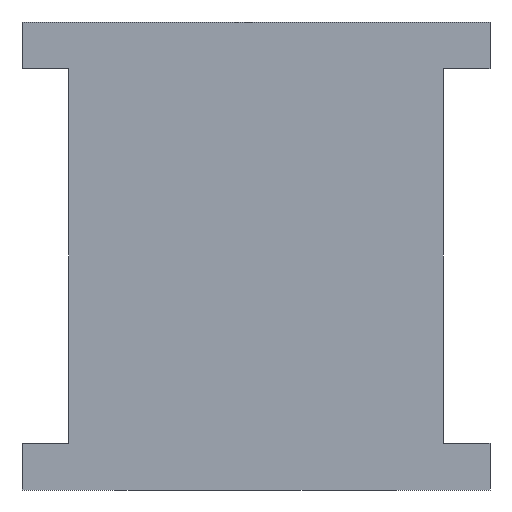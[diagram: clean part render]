
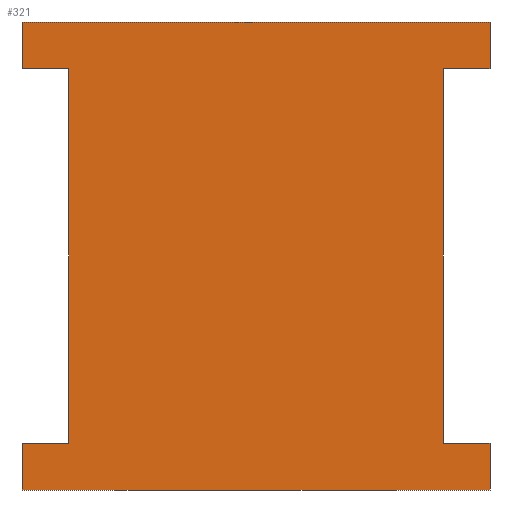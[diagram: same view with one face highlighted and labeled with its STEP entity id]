
A CAD part, front view. The second image highlights one B-rep face of the part: STEP entity #321.
In plain terms, the highlighted planar face has unit normal (0, -1, 0).
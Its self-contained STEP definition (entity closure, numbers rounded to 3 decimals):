
#34=FACE_OUTER_BOUND('',#51,.T.);
#51=EDGE_LOOP('',(#271,#272,#273,#274,#275,#276,#277,#278,#279,#280,#281,
#282));
#71=LINE('',#479,#111);
#74=LINE('',#484,#114);
#76=LINE('',#488,#116);
#78=LINE('',#493,#118);
#81=LINE('',#498,#121);
#83=LINE('',#502,#123);
#84=LINE('',#505,#124);
#86=LINE('',#509,#126);
#90=LINE('',#522,#130);
#92=LINE('',#526,#132);
#93=LINE('',#528,#133);
#94=LINE('',#529,#134);
#111=VECTOR('',#387,10.);
#114=VECTOR('',#392,10.);
#116=VECTOR('',#396,10.);
#118=VECTOR('',#400,10.);
#121=VECTOR('',#405,10.);
#123=VECTOR('',#409,10.);
#124=VECTOR('',#412,10.);
#126=VECTOR('',#416,10.);
#130=VECTOR('',#430,10.);
#132=VECTOR('',#434,10.);
#133=VECTOR('',#437,10.);
#134=VECTOR('',#438,10.);
#149=VERTEX_POINT('',#476);
#150=VERTEX_POINT('',#478);
#151=VERTEX_POINT('',#482);
#152=VERTEX_POINT('',#486);
#153=VERTEX_POINT('',#490);
#154=VERTEX_POINT('',#492);
#155=VERTEX_POINT('',#496);
#156=VERTEX_POINT('',#500);
#157=VERTEX_POINT('',#504);
#158=VERTEX_POINT('',#508);
#162=VERTEX_POINT('',#520);
#163=VERTEX_POINT('',#524);
#180=EDGE_CURVE('',#150,#149,#71,.T.);
#183=EDGE_CURVE('',#149,#151,#74,.T.);
#185=EDGE_CURVE('',#151,#152,#76,.T.);
#187=EDGE_CURVE('',#154,#153,#78,.T.);
#190=EDGE_CURVE('',#153,#155,#81,.T.);
#192=EDGE_CURVE('',#155,#156,#83,.T.);
#193=EDGE_CURVE('',#157,#150,#84,.T.);
#195=EDGE_CURVE('',#154,#158,#86,.T.);
#202=EDGE_CURVE('',#157,#162,#90,.T.);
#204=EDGE_CURVE('',#152,#163,#92,.T.);
#205=EDGE_CURVE('',#158,#163,#93,.T.);
#206=EDGE_CURVE('',#162,#156,#94,.T.);
#271=ORIENTED_EDGE('',*,*,#185,.T.);
#272=ORIENTED_EDGE('',*,*,#204,.T.);
#273=ORIENTED_EDGE('',*,*,#205,.F.);
#274=ORIENTED_EDGE('',*,*,#195,.F.);
#275=ORIENTED_EDGE('',*,*,#187,.T.);
#276=ORIENTED_EDGE('',*,*,#190,.T.);
#277=ORIENTED_EDGE('',*,*,#192,.T.);
#278=ORIENTED_EDGE('',*,*,#206,.F.);
#279=ORIENTED_EDGE('',*,*,#202,.F.);
#280=ORIENTED_EDGE('',*,*,#193,.T.);
#281=ORIENTED_EDGE('',*,*,#180,.T.);
#282=ORIENTED_EDGE('',*,*,#183,.T.);
#305=PLANE('',#360);
#321=ADVANCED_FACE('',(#34),#305,.T.);
#360=AXIS2_PLACEMENT_3D('',#527,#435,#436);
#387=DIRECTION('',(-1.,0.,0.));
#392=DIRECTION('',(0.,0.,1.));
#396=DIRECTION('',(1.,0.,0.));
#400=DIRECTION('',(1.,0.,0.));
#405=DIRECTION('',(0.,0.,-1.));
#409=DIRECTION('',(-1.,0.,0.));
#412=DIRECTION('',(0.,0.,1.));
#416=DIRECTION('',(0.,0.,1.));
#430=DIRECTION('',(-1.,0.,0.));
#434=DIRECTION('',(0.,0.,1.));
#435=DIRECTION('center_axis',(0.,-1.,0.));
#436=DIRECTION('ref_axis',(1.,0.,0.));
#437=DIRECTION('',(1.,0.,0.));
#438=DIRECTION('',(0.,0.,1.));
#476=CARTESIAN_POINT('',(10.,-11.,-10.));
#478=CARTESIAN_POINT('',(12.5,-11.,-10.));
#479=CARTESIAN_POINT('',(-1.25,-11.,-10.));
#482=CARTESIAN_POINT('',(10.,-11.,10.));
#484=CARTESIAN_POINT('',(10.,-11.,5.));
#486=CARTESIAN_POINT('',(12.5,-11.,10.));
#488=CARTESIAN_POINT('',(2.279,-11.,10.));
#490=CARTESIAN_POINT('',(-10.,-11.,10.));
#492=CARTESIAN_POINT('',(-12.5,-11.,10.));
#493=CARTESIAN_POINT('',(-11.25,-11.,10.));
#496=CARTESIAN_POINT('',(-10.,-11.,-10.));
#498=CARTESIAN_POINT('',(-10.,-11.,-5.));
#500=CARTESIAN_POINT('',(-12.5,-11.,-10.));
#502=CARTESIAN_POINT('',(-15.368,-11.,-10.));
#504=CARTESIAN_POINT('',(12.5,-11.,-12.5));
#505=CARTESIAN_POINT('',(12.5,-11.,0.));
#508=CARTESIAN_POINT('',(-12.5,-11.,12.5));
#509=CARTESIAN_POINT('',(-12.5,-11.,0.));
#520=CARTESIAN_POINT('',(-12.5,-11.,-12.5));
#522=CARTESIAN_POINT('',(-12.5,-11.,-12.5));
#524=CARTESIAN_POINT('',(12.5,-11.,12.5));
#526=CARTESIAN_POINT('',(12.5,-11.,0.));
#527=CARTESIAN_POINT('Origin',(-12.5,-11.,0.));
#528=CARTESIAN_POINT('',(-12.5,-11.,12.5));
#529=CARTESIAN_POINT('',(-12.5,-11.,0.));
